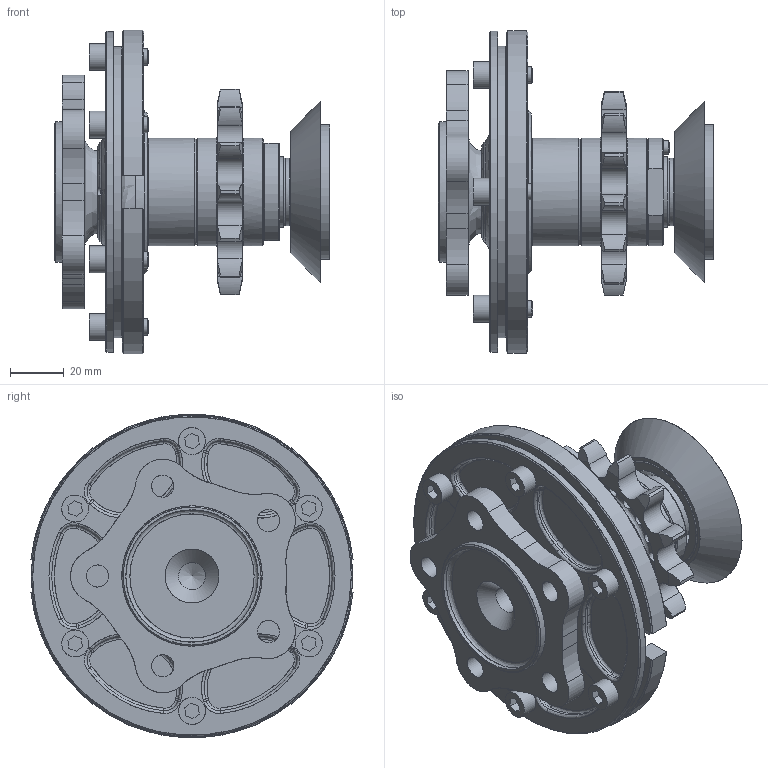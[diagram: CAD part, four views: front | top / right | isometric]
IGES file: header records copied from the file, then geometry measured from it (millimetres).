
Start section: Missler Software BP 521, 31674 Labege Cedex, France Tel   : +33 (0)5 61 00 03 00 Fax   : +33 (0)5 61 00 03 03 Email : sup.topsolid@topsolid.com
Global section: file name: Z:\J\Jp3\Axe de barre a pignon\Axe de barre version light\Helium steering head.igs; native system: TopSolid v607200 Missler Software; preprocessor: IGES preprocessor v100000; author: Alex Rogeon; date: 100903.102446; units: millimetre
Bounding box: 102 x 119.4 x 119.97 mm (x, y, z)
Surface area: 117685.8 mm2 (no closed solid volume)
Topology: 0 solids, 0 shells, 705 faces, 8483 edges, 8376 vertices
Faces by surface type: bspline 705
